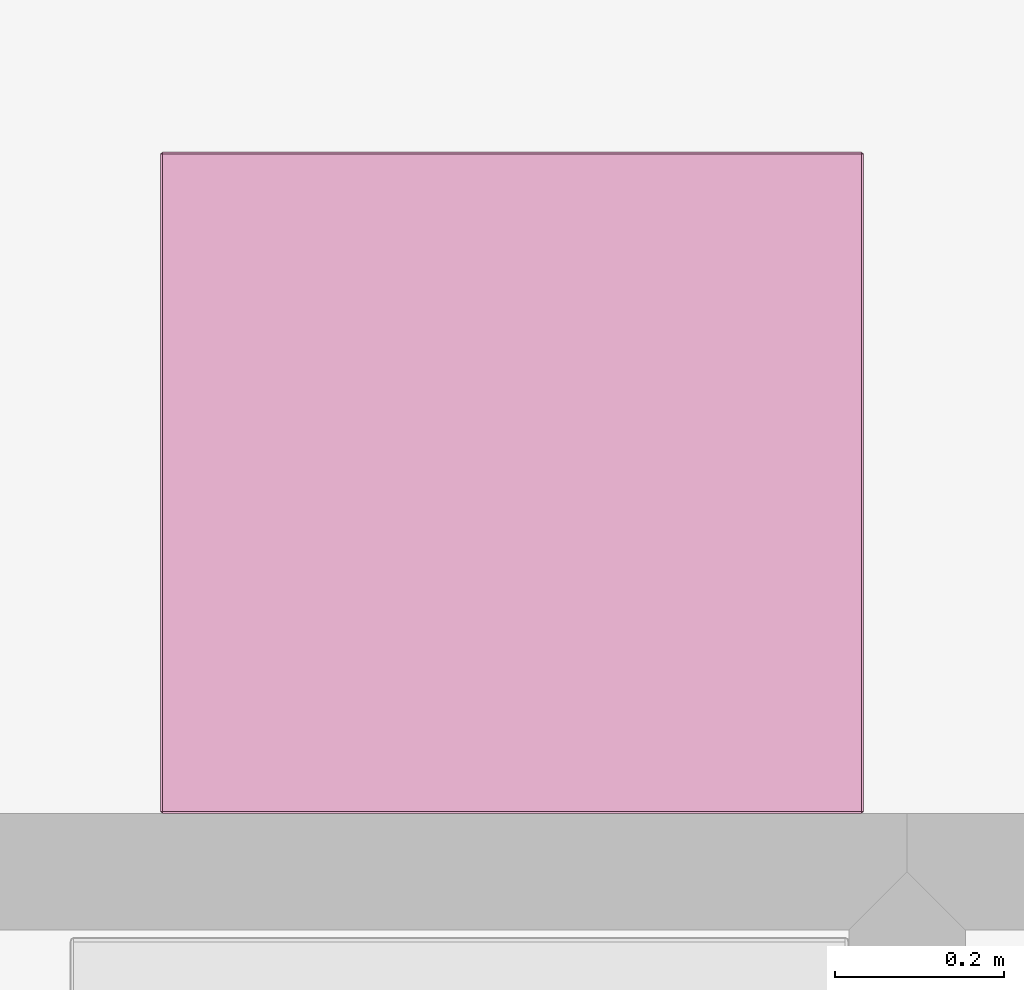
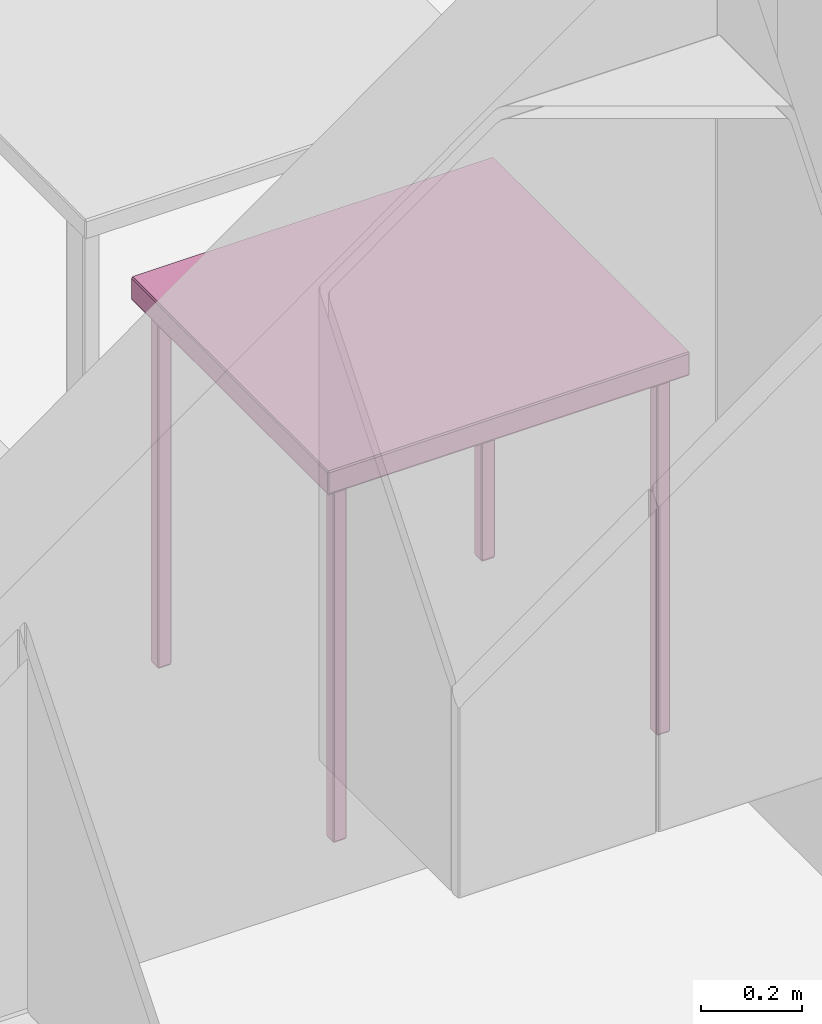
# One storey, part 2 of 9: 1 furnishing.
"""IFC2X3 building model written with IfcOpenShell, lengths in metres."""

from ifc_helpers import new_model, si_unit, frame, origin_with_axes, place, context, project, spatial, faceted_brep, type_object, element, save


model = new_model("IFC2X3")

# Units and contexts
model_context = context("Model", 3, precision=1e-05, world=origin_with_axes())
ifc_project = project(units=[si_unit("AREAUNIT", "SQUARE_METRE"), si_unit("LENGTHUNIT", "METRE")], contexts=[model_context])

# Site, building, storey, space
site_placement = place(None, origin_with_axes())
site = spatial("IfcSite", under=ifc_project, at=site_placement, Name="Site", CompositionType="ELEMENT")
building_placement = place(site_placement, origin_with_axes())
building = spatial("IfcBuilding", under=site, at=building_placement, Name="Building", CompositionType="ELEMENT")
storey_placement = place(building_placement, frame((0.0, 0.0, 0.0500004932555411), z_axis=(0.0, 0.0, 1.0), x_axis=(1.0, 0.0, 0.0)))
storey = spatial("IfcBuildingStorey", under=building, at=storey_placement, Name="Story 0", CompositionType="ELEMENT", Elevation=0.0499999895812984)
space_placement = place(storey_placement, frame((-7.67097576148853, 2.58340758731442, 0.0), z_axis=(0.0, 0.0, 1.0), x_axis=(1.0, 0.0, 0.0)))
space = spatial("IfcSpace", under=storey, at=space_placement, Name="001", CompositionType="ELEMENT", InteriorOrExteriorSpace="INTERNAL")

# Furnishing
furniture_type = type_object("IfcFurnitureType", Name="8485a4e7-10bb-4ac4-9428-351173809fa8")
furnishing_placement = place(space_placement, frame((1.53107412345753, -3.07276023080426, 0.464273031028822), z_axis=(0.0, 0.0, 0.999999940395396), x_axis=(0.0, 1.00000000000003, 0.0)))
element("IfcFurnishingElement", 1, at=furnishing_placement, inside=space, type_object=furniture_type, Name="Table", ObjectType="Table", context=model_context, shape_type="Brep", body=[
    faceted_brep([(0.3888, 0.4154, 0.4104), (-0.3888, 0.4154, 0.4104), (0.3888, 0.4154, 0.4602), (-0.3888, 0.4154, 0.4602), (0.3888, 0.4154, 0.4602), (-0.3888, 0.4154, 0.4104), (0.3333, -0.3846, 0.4209), (0.3333, -0.3574, 0.4209), (0.3333, -0.3846, -0.4602), (0.3333, -0.3574, -0.4602), (0.3333, -0.3846, -0.4602), (0.3333, -0.3574, 0.4209), (0.3608, -0.3867, 0.4209), (0.3352, -0.3867, 0.4209), (0.3608, -0.3867, -0.4602), (0.3352, -0.3867, -0.4602), (0.3608, -0.3867, -0.4602), (0.3352, -0.3867, 0.4209), (0.3628, -0.3574, 0.4209), (0.3628, -0.3846, 0.4209), (0.3628, -0.3574, -0.4602), (0.3628, -0.3846, -0.4602), (0.3628, -0.3574, -0.4602), (0.3628, -0.3846, 0.4209), (0.3352, -0.3553, 0.4209), (0.3608, -0.3553, 0.4209), (0.3352, -0.3553, -0.4602), (0.3608, -0.3553, -0.4602), (0.3352, -0.3553, -0.4602), (0.3608, -0.3553, 0.4209), (0.3333, 0.3846, 0.4209), (0.3333, 0.3846, -0.4602), (0.3333, 0.3574, 0.4209), (0.3333, 0.3574, -0.4602), (0.3333, 0.3574, 0.4209), (0.3333, 0.3846, -0.4602), (0.3608, 0.3867, 0.4209), (0.3608, 0.3867, -0.4602), (0.3352, 0.3867, 0.4209), (0.3352, 0.3867, -0.4602), (0.3352, 0.3867, 0.4209), (0.3608, 0.3867, -0.4602), (0.3628, 0.3574, 0.4209), (0.3628, 0.3574, -0.4602), (0.3628, 0.3846, 0.4209), (0.3628, 0.3846, -0.4602), (0.3628, 0.3846, 0.4209), (0.3628, 0.3574, -0.4602), (0.3352, 0.3553, 0.4209), (0.3352, 0.3553, -0.4602), (0.3608, 0.3553, 0.4209), (0.3608, 0.3553, -0.4602), (0.3608, 0.3553, 0.4209), (0.3352, 0.3553, -0.4602), (0.3907, 0.4133, 0.4104), (0.3907, 0.4133, 0.4602), (0.3907, -0.4133, 0.4104), (0.3907, -0.4133, 0.4602), (0.3907, -0.4133, 0.4104), (0.3907, 0.4133, 0.4602), (-0.3907, 0.4133, 0.4602), (-0.3907, 0.4133, 0.4104), (-0.3907, -0.4133, 0.4602), (-0.3907, -0.4133, 0.4104), (-0.3907, -0.4133, 0.4602), (-0.3907, 0.4133, 0.4104), (-0.3333, -0.3846, 0.4209), (-0.3333, -0.3846, -0.4602), (-0.3333, -0.3574, 0.4209), (-0.3333, -0.3574, -0.4602), (-0.3333, -0.3574, 0.4209), (-0.3333, -0.3846, -0.4602), (-0.3608, -0.3867, 0.4209), (-0.3608, -0.3867, -0.4602), (-0.3352, -0.3867, 0.4209), (-0.3352, -0.3867, -0.4602), (-0.3352, -0.3867, 0.4209), (-0.3608, -0.3867, -0.4602), (-0.3628, -0.3574, 0.4209), (-0.3628, -0.3574, -0.4602), (-0.3628, -0.3846, 0.4209), (-0.3628, -0.3846, -0.4602), (-0.3628, -0.3846, 0.4209), (-0.3628, -0.3574, -0.4602), (-0.3352, -0.3553, 0.4209), (-0.3352, -0.3553, -0.4602), (-0.3608, -0.3553, 0.4209), (-0.3608, -0.3553, -0.4602), (-0.3608, -0.3553, 0.4209), (-0.3352, -0.3553, -0.4602), (-0.3333, 0.3846, 0.4209), (-0.3333, 0.3574, 0.4209), (-0.3333, 0.3846, -0.4602), (-0.3333, 0.3574, -0.4602), (-0.3333, 0.3846, -0.4602), (-0.3333, 0.3574, 0.4209), (-0.3608, 0.3867, 0.4209), (-0.3352, 0.3867, 0.4209), (-0.3608, 0.3867, -0.4602), (-0.3352, 0.3867, -0.4602), (-0.3608, 0.3867, -0.4602), (-0.3352, 0.3867, 0.4209), (-0.3628, 0.3574, 0.4209), (-0.3628, 0.3846, 0.4209), (-0.3628, 0.3574, -0.4602), (-0.3628, 0.3846, -0.4602), (-0.3628, 0.3574, -0.4602), (-0.3628, 0.3846, 0.4209), (-0.3352, 0.3553, 0.4209), (-0.3608, 0.3553, 0.4209), (-0.3352, 0.3553, -0.4602), (-0.3608, 0.3553, -0.4602), (-0.3352, 0.3553, -0.4602), (-0.3608, 0.3553, 0.4209), (-0.3888, 0.4133, 0.4643), (-0.3888, -0.4133, 0.4643), (0.3888, 0.4133, 0.4643), (0.3888, -0.4133, 0.4643), (0.3888, 0.4133, 0.4643), (-0.3888, -0.4133, 0.4643), (0.3888, -0.4154, 0.4104), (0.3888, -0.4154, 0.4602), (-0.3888, -0.4154, 0.4104), (-0.3888, -0.4154, 0.4602), (-0.3888, -0.4154, 0.4104), (0.3888, -0.4154, 0.4602), (0.3888, -0.4133, 0.4063), (-0.3888, -0.4133, 0.4063), (0.3888, 0.4133, 0.4063), (-0.3888, 0.4133, 0.4063), (0.3888, 0.4133, 0.4063), (-0.3888, -0.4133, 0.4063), (0.3608, -0.3846, 0.4249), (0.3608, -0.3574, 0.4249), (0.3352, -0.3846, 0.4249), (0.3352, -0.3574, 0.4249), (0.3352, -0.3846, 0.4249), (0.3608, -0.3574, 0.4249), (0.3608, -0.3574, -0.4643), (0.3608, -0.3846, -0.4643), (0.3352, -0.3574, -0.4643), (0.3352, -0.3846, -0.4643), (0.3352, -0.3574, -0.4643), (0.3608, -0.3846, -0.4643), (0.3608, 0.3846, -0.4643), (0.3608, 0.3574, -0.4643), (0.3352, 0.3846, -0.4643), (0.3352, 0.3574, -0.4643), (0.3352, 0.3846, -0.4643), (0.3608, 0.3574, -0.4643), (0.3608, 0.3574, 0.4249), (0.3608, 0.3846, 0.4249), (0.3352, 0.3574, 0.4249), (0.3352, 0.3846, 0.4249), (0.3352, 0.3574, 0.4249), (0.3608, 0.3846, 0.4249), (-0.3608, -0.3846, -0.4643), (-0.3608, -0.3574, -0.4643), (-0.3352, -0.3846, -0.4643), (-0.3352, -0.3574, -0.4643), (-0.3352, -0.3846, -0.4643), (-0.3608, -0.3574, -0.4643), (-0.3608, -0.3574, 0.425), (-0.3608, -0.3846, 0.425), (-0.3352, -0.3574, 0.425), (-0.3352, -0.3846, 0.425), (-0.3352, -0.3574, 0.425), (-0.3608, -0.3846, 0.425), (-0.3608, 0.3846, 0.4249), (-0.3608, 0.3574, 0.4249), (-0.3352, 0.3846, 0.4249), (-0.3352, 0.3574, 0.4249), (-0.3352, 0.3846, 0.4249), (-0.3608, 0.3574, 0.4249), (-0.3608, 0.3574, -0.4643), (-0.3608, 0.3846, -0.4643), (-0.3352, 0.3574, -0.4643), (-0.3352, 0.3846, -0.4643), (-0.3352, 0.3574, -0.4643), (-0.3608, 0.3846, -0.4643), (-0.3888, 0.4133, 0.4643), (-0.3888, 0.4154, 0.4602), (-0.3907, 0.4133, 0.4602), (0.3352, -0.3574, -0.4643), (0.3333, -0.3574, -0.4602), (0.3352, -0.3553, -0.4602), (0.3352, -0.3846, -0.4643), (0.3352, -0.3867, -0.4602), (0.3333, -0.3846, -0.4602), (0.3608, -0.3846, -0.4643), (0.3628, -0.3846, -0.4602), (0.3608, -0.3867, -0.4602), (0.3608, -0.3574, -0.4643), (0.3608, -0.3553, -0.4602), (0.3628, -0.3574, -0.4602), (0.3352, -0.3574, 0.4249), (0.3352, -0.3553, 0.4209), (0.3333, -0.3574, 0.4209), (0.3352, 0.3553, -0.4602), (0.3333, 0.3574, -0.4602), (0.3352, 0.3574, -0.4643), (0.3352, 0.3846, 0.4249), (0.3352, 0.3867, 0.4209), (0.3333, 0.3846, 0.4209), (0.3608, 0.3846, 0.4249), (0.3628, 0.3846, 0.4209), (0.3608, 0.3867, 0.4209), (0.3608, 0.3574, 0.4249), (0.3608, 0.3553, 0.4209), (0.3628, 0.3574, 0.4209), (0.3888, -0.4154, 0.4602), (0.3907, -0.4133, 0.4602), (0.3888, -0.4133, 0.4643), (0.3888, 0.4133, 0.4643), (0.3907, 0.4133, 0.4602), (0.3888, 0.4154, 0.4602), (-0.3888, -0.4154, 0.4104), (-0.3907, -0.4133, 0.4104), (-0.3888, -0.4133, 0.4063), (-0.3888, 0.4133, 0.4063), (-0.3907, 0.4133, 0.4104), (-0.3888, 0.4154, 0.4104), (-0.3352, -0.3553, -0.4602), (-0.3333, -0.3574, -0.4602), (-0.3352, -0.3574, -0.4643), (-0.3352, -0.3846, 0.425), (-0.3352, -0.3867, 0.4209), (-0.3333, -0.3846, 0.4209), (-0.3608, -0.3846, 0.425), (-0.3628, -0.3846, 0.4209), (-0.3608, -0.3867, 0.4209), (-0.3608, -0.3574, 0.425), (-0.3608, -0.3553, 0.4209), (-0.3628, -0.3574, 0.4209), (-0.3352, 0.3574, -0.4643), (-0.3333, 0.3574, -0.4602), (-0.3352, 0.3553, -0.4602), (-0.3352, 0.3846, -0.4643), (-0.3352, 0.3867, -0.4602), (-0.3333, 0.3846, -0.4602), (-0.3608, 0.3846, -0.4643), (-0.3628, 0.3846, -0.4602), (-0.3608, 0.3867, -0.4602), (-0.3608, 0.3574, -0.4643), (-0.3608, 0.3553, -0.4602), (-0.3628, 0.3574, -0.4602), (-0.3352, 0.3574, 0.4249), (-0.3352, 0.3553, 0.4209), (-0.3333, 0.3574, 0.4209), (-0.3888, -0.4154, 0.4602), (-0.3888, -0.4133, 0.4643), (-0.3907, -0.4133, 0.4602), (0.3888, -0.4154, 0.4104), (0.3888, -0.4133, 0.4063), (0.3907, -0.4133, 0.4104), (0.3907, 0.4133, 0.4104), (0.3888, 0.4133, 0.4063), (0.3888, 0.4154, 0.4104), (0.3608, -0.3553, 0.4209), (0.3608, -0.3574, 0.4249), (0.3628, -0.3574, 0.4209), (0.3628, -0.3846, 0.4209), (0.3608, -0.3846, 0.4249), (0.3608, -0.3867, 0.4209), (0.3352, -0.3867, 0.4209), (0.3352, -0.3846, 0.4249), (0.3333, -0.3846, 0.4209), (0.3608, 0.3553, -0.4602), (0.3608, 0.3574, -0.4643), (0.3628, 0.3574, -0.4602), (0.3628, 0.3846, -0.4602), (0.3608, 0.3846, -0.4643), (0.3608, 0.3867, -0.4602), (0.3352, 0.3867, -0.4602), (0.3352, 0.3846, -0.4643), (0.3333, 0.3846, -0.4602), (0.3352, 0.3553, 0.4209), (0.3352, 0.3574, 0.4249), (0.3333, 0.3574, 0.4209), (-0.3608, -0.3553, -0.4602), (-0.3608, -0.3574, -0.4643), (-0.3628, -0.3574, -0.4602), (-0.3628, -0.3846, -0.4602), (-0.3608, -0.3846, -0.4643), (-0.3608, -0.3867, -0.4602), (-0.3352, -0.3867, -0.4602), (-0.3352, -0.3846, -0.4643), (-0.3333, -0.3846, -0.4602), (-0.3352, -0.3553, 0.4209), (-0.3352, -0.3574, 0.425), (-0.3333, -0.3574, 0.4209), (-0.3608, 0.3553, 0.4209), (-0.3608, 0.3574, 0.4249), (-0.3628, 0.3574, 0.4209), (-0.3628, 0.3846, 0.4209), (-0.3608, 0.3846, 0.4249), (-0.3608, 0.3867, 0.4209), (-0.3352, 0.3867, 0.4209), (-0.3352, 0.3846, 0.4249), (-0.3333, 0.3846, 0.4209), (-0.3888, 0.4154, 0.4602), (-0.3888, 0.4154, 0.4104), (-0.3907, 0.4133, 0.4602), (-0.3907, 0.4133, 0.4104), (-0.3907, 0.4133, 0.4602), (-0.3888, 0.4154, 0.4104), (-0.3888, 0.4154, 0.4104), (0.3888, 0.4154, 0.4104), (-0.3888, 0.4133, 0.4063), (0.3888, 0.4133, 0.4063), (-0.3888, 0.4133, 0.4063), (0.3888, 0.4154, 0.4104), (0.3888, 0.4154, 0.4104), (0.3888, 0.4154, 0.4602), (0.3907, 0.4133, 0.4104), (0.3907, 0.4133, 0.4602), (0.3907, 0.4133, 0.4104), (0.3888, 0.4154, 0.4602), (0.3888, 0.4154, 0.4602), (-0.3888, 0.4154, 0.4602), (0.3888, 0.4133, 0.4643), (-0.3888, 0.4133, 0.4643), (0.3888, 0.4133, 0.4643), (-0.3888, 0.4154, 0.4602), (0.3333, -0.3574, -0.4602), (0.3333, -0.3574, 0.4209), (0.3352, -0.3553, -0.4602), (0.3352, -0.3553, 0.4209), (0.3352, -0.3553, -0.4602), (0.3333, -0.3574, 0.4209), (0.3333, -0.3574, 0.4209), (0.3333, -0.3846, 0.4209), (0.3352, -0.3574, 0.4249), (0.3352, -0.3846, 0.4249), (0.3352, -0.3574, 0.4249), (0.3333, -0.3846, 0.4209), (0.3333, -0.3846, 0.4209), (0.3333, -0.3846, -0.4602), (0.3352, -0.3867, 0.4209), (0.3352, -0.3867, -0.4602), (0.3352, -0.3867, 0.4209), (0.3333, -0.3846, -0.4602), (0.3333, -0.3846, -0.4602), (0.3333, -0.3574, -0.4602), (0.3352, -0.3846, -0.4643), (0.3352, -0.3574, -0.4643), (0.3352, -0.3846, -0.4643), (0.3333, -0.3574, -0.4602), (0.3352, -0.3867, 0.4209), (0.3608, -0.3867, 0.4209), (0.3352, -0.3846, 0.4249), (0.3608, -0.3846, 0.4249), (0.3352, -0.3846, 0.4249), (0.3608, -0.3867, 0.4209), (0.3608, -0.3867, 0.4209), (0.3608, -0.3867, -0.4602), (0.3628, -0.3846, 0.4209), (0.3628, -0.3846, -0.4602), (0.3628, -0.3846, 0.4209), (0.3608, -0.3867, -0.4602), (0.3608, -0.3867, -0.4602), (0.3352, -0.3867, -0.4602), (0.3608, -0.3846, -0.4643), (0.3352, -0.3846, -0.4643), (0.3608, -0.3846, -0.4643), (0.3352, -0.3867, -0.4602), (0.3628, -0.3846, 0.4209), (0.3628, -0.3574, 0.4209), (0.3608, -0.3846, 0.4249), (0.3608, -0.3574, 0.4249), (0.3608, -0.3846, 0.4249), (0.3628, -0.3574, 0.4209), (0.3628, -0.3574, 0.4209), (0.3628, -0.3574, -0.4602), (0.3608, -0.3553, 0.4209), (0.3608, -0.3553, -0.4602), (0.3608, -0.3553, 0.4209), (0.3628, -0.3574, -0.4602), (0.3628, -0.3574, -0.4602), (0.3628, -0.3846, -0.4602), (0.3608, -0.3574, -0.4643), (0.3608, -0.3846, -0.4643), (0.3608, -0.3574, -0.4643), (0.3628, -0.3846, -0.4602), (0.3608, -0.3553, 0.4209), (0.3352, -0.3553, 0.4209), (0.3608, -0.3574, 0.4249), (0.3352, -0.3574, 0.4249), (0.3608, -0.3574, 0.4249), (0.3352, -0.3553, 0.4209), (0.3352, -0.3553, -0.4602), (0.3608, -0.3553, -0.4602), (0.3352, -0.3574, -0.4643), (0.3608, -0.3574, -0.4643), (0.3352, -0.3574, -0.4643), (0.3608, -0.3553, -0.4602), (0.3333, 0.3574, -0.4602), (0.3333, 0.3846, -0.4602), (0.3352, 0.3574, -0.4643), (0.3352, 0.3846, -0.4643), (0.3352, 0.3574, -0.4643), (0.3333, 0.3846, -0.4602), (0.3333, 0.3846, -0.4602), (0.3333, 0.3846, 0.4209), (0.3352, 0.3867, -0.4602), (0.3352, 0.3867, 0.4209), (0.3352, 0.3867, -0.4602), (0.3333, 0.3846, 0.4209), (0.3333, 0.3846, 0.4209), (0.3333, 0.3574, 0.4209), (0.3352, 0.3846, 0.4249), (0.3352, 0.3574, 0.4249), (0.3352, 0.3846, 0.4249), (0.3333, 0.3574, 0.4209), (0.3333, 0.3574, 0.4209), (0.3333, 0.3574, -0.4602), (0.3352, 0.3553, 0.4209), (0.3352, 0.3553, -0.4602), (0.3352, 0.3553, 0.4209), (0.3333, 0.3574, -0.4602), (0.3352, 0.3867, -0.4602), (0.3608, 0.3867, -0.4602), (0.3352, 0.3846, -0.4643), (0.3608, 0.3846, -0.4643), (0.3352, 0.3846, -0.4643), (0.3608, 0.3867, -0.4602), (0.3608, 0.3867, -0.4602), (0.3608, 0.3867, 0.4209), (0.3628, 0.3846, -0.4602), (0.3628, 0.3846, 0.4209), (0.3628, 0.3846, -0.4602), (0.3608, 0.3867, 0.4209), (0.3608, 0.3867, 0.4209), (0.3352, 0.3867, 0.4209), (0.3608, 0.3846, 0.4249), (0.3352, 0.3846, 0.4249), (0.3608, 0.3846, 0.4249), (0.3352, 0.3867, 0.4209), (0.3628, 0.3846, -0.4602), (0.3628, 0.3574, -0.4602), (0.3608, 0.3846, -0.4643), (0.3608, 0.3574, -0.4643), (0.3608, 0.3846, -0.4643), (0.3628, 0.3574, -0.4602), (0.3628, 0.3574, -0.4602), (0.3628, 0.3574, 0.4209), (0.3608, 0.3553, -0.4602), (0.3608, 0.3553, 0.4209), (0.3608, 0.3553, -0.4602), (0.3628, 0.3574, 0.4209), (0.3628, 0.3574, 0.4209), (0.3628, 0.3846, 0.4209), (0.3608, 0.3574, 0.4249), (0.3608, 0.3846, 0.4249), (0.3608, 0.3574, 0.4249), (0.3628, 0.3846, 0.4209), (0.3608, 0.3553, -0.4602), (0.3352, 0.3553, -0.4602), (0.3608, 0.3574, -0.4643), (0.3352, 0.3574, -0.4643), (0.3608, 0.3574, -0.4643), (0.3352, 0.3553, -0.4602), (0.3352, 0.3553, 0.4209), (0.3608, 0.3553, 0.4209), (0.3352, 0.3574, 0.4249), (0.3608, 0.3574, 0.4249), (0.3352, 0.3574, 0.4249), (0.3608, 0.3553, 0.4209), (0.3907, -0.4133, 0.4602), (0.3907, 0.4133, 0.4602), (0.3888, -0.4133, 0.4643), (0.3888, 0.4133, 0.4643), (0.3888, -0.4133, 0.4643), (0.3907, 0.4133, 0.4602), (0.3907, 0.4133, 0.4104), (0.3907, -0.4133, 0.4104), (0.3888, 0.4133, 0.4063), (0.3888, -0.4133, 0.4063), (0.3888, 0.4133, 0.4063), (0.3907, -0.4133, 0.4104), (0.3907, -0.4133, 0.4104), (0.3907, -0.4133, 0.4602), (0.3888, -0.4154, 0.4104), (0.3888, -0.4154, 0.4602), (0.3888, -0.4154, 0.4104), (0.3907, -0.4133, 0.4602), (-0.3907, -0.4133, 0.4104), (-0.3907, 0.4133, 0.4104), (-0.3888, -0.4133, 0.4063), (-0.3888, 0.4133, 0.4063), (-0.3888, -0.4133, 0.4063), (-0.3907, 0.4133, 0.4104), (-0.3907, 0.4133, 0.4602), (-0.3907, -0.4133, 0.4602), (-0.3888, 0.4133, 0.4643), (-0.3888, -0.4133, 0.4643), (-0.3888, 0.4133, 0.4643), (-0.3907, -0.4133, 0.4602), (-0.3907, -0.4133, 0.4602), (-0.3907, -0.4133, 0.4104), (-0.3888, -0.4154, 0.4602), (-0.3888, -0.4154, 0.4104), (-0.3888, -0.4154, 0.4602), (-0.3907, -0.4133, 0.4104), (-0.3333, -0.3574, -0.4602), (-0.3333, -0.3846, -0.4602), (-0.3352, -0.3574, -0.4643), (-0.3352, -0.3846, -0.4643), (-0.3352, -0.3574, -0.4643), (-0.3333, -0.3846, -0.4602), (-0.3333, -0.3846, -0.4602), (-0.3333, -0.3846, 0.4209), (-0.3352, -0.3867, -0.4602), (-0.3352, -0.3867, 0.4209), (-0.3352, -0.3867, -0.4602), (-0.3333, -0.3846, 0.4209), (-0.3333, -0.3846, 0.4209), (-0.3333, -0.3574, 0.4209), (-0.3352, -0.3846, 0.425), (-0.3352, -0.3574, 0.425), (-0.3352, -0.3846, 0.425), (-0.3333, -0.3574, 0.4209), (-0.3333, -0.3574, 0.4209), (-0.3333, -0.3574, -0.4602), (-0.3352, -0.3553, 0.4209), (-0.3352, -0.3553, -0.4602), (-0.3352, -0.3553, 0.4209), (-0.3333, -0.3574, -0.4602), (-0.3352, -0.3867, -0.4602), (-0.3608, -0.3867, -0.4602), (-0.3352, -0.3846, -0.4643), (-0.3608, -0.3846, -0.4643), (-0.3352, -0.3846, -0.4643), (-0.3608, -0.3867, -0.4602), (-0.3608, -0.3867, -0.4602), (-0.3608, -0.3867, 0.4209), (-0.3628, -0.3846, -0.4602), (-0.3628, -0.3846, 0.4209), (-0.3628, -0.3846, -0.4602), (-0.3608, -0.3867, 0.4209), (-0.3608, -0.3867, 0.4209), (-0.3352, -0.3867, 0.4209), (-0.3608, -0.3846, 0.425), (-0.3352, -0.3846, 0.425), (-0.3608, -0.3846, 0.425), (-0.3352, -0.3867, 0.4209), (-0.3628, -0.3846, -0.4602), (-0.3628, -0.3574, -0.4602), (-0.3608, -0.3846, -0.4643), (-0.3608, -0.3574, -0.4643), (-0.3608, -0.3846, -0.4643), (-0.3628, -0.3574, -0.4602), (-0.3628, -0.3574, -0.4602), (-0.3628, -0.3574, 0.4209), (-0.3608, -0.3553, -0.4602), (-0.3608, -0.3553, 0.4209), (-0.3608, -0.3553, -0.4602), (-0.3628, -0.3574, 0.4209), (-0.3628, -0.3574, 0.4209), (-0.3628, -0.3846, 0.4209), (-0.3608, -0.3574, 0.425), (-0.3608, -0.3846, 0.425), (-0.3608, -0.3574, 0.425), (-0.3628, -0.3846, 0.4209), (-0.3608, -0.3553, -0.4602), (-0.3352, -0.3553, -0.4602), (-0.3608, -0.3574, -0.4643), (-0.3352, -0.3574, -0.4643), (-0.3608, -0.3574, -0.4643), (-0.3352, -0.3553, -0.4602), (-0.3352, -0.3553, 0.4209), (-0.3608, -0.3553, 0.4209), (-0.3352, -0.3574, 0.425), (-0.3608, -0.3574, 0.425), (-0.3352, -0.3574, 0.425), (-0.3608, -0.3553, 0.4209), (-0.3333, 0.3574, -0.4602), (-0.3333, 0.3574, 0.4209), (-0.3352, 0.3553, -0.4602), (-0.3352, 0.3553, 0.4209), (-0.3352, 0.3553, -0.4602), (-0.3333, 0.3574, 0.4209), (-0.3333, 0.3574, 0.4209), (-0.3333, 0.3846, 0.4209), (-0.3352, 0.3574, 0.4249), (-0.3352, 0.3846, 0.4249), (-0.3352, 0.3574, 0.4249), (-0.3333, 0.3846, 0.4209), (-0.3333, 0.3846, 0.4209), (-0.3333, 0.3846, -0.4602), (-0.3352, 0.3867, 0.4209), (-0.3352, 0.3867, -0.4602), (-0.3352, 0.3867, 0.4209), (-0.3333, 0.3846, -0.4602), (-0.3333, 0.3846, -0.4602), (-0.3333, 0.3574, -0.4602), (-0.3352, 0.3846, -0.4643), (-0.3352, 0.3574, -0.4643), (-0.3352, 0.3846, -0.4643), (-0.3333, 0.3574, -0.4602), (-0.3352, 0.3867, 0.4209), (-0.3608, 0.3867, 0.4209), (-0.3352, 0.3846, 0.4249), (-0.3608, 0.3846, 0.4249), (-0.3352, 0.3846, 0.4249), (-0.3608, 0.3867, 0.4209), (-0.3608, 0.3867, 0.4209), (-0.3608, 0.3867, -0.4602), (-0.3628, 0.3846, 0.4209), (-0.3628, 0.3846, -0.4602), (-0.3628, 0.3846, 0.4209), (-0.3608, 0.3867, -0.4602), (-0.3608, 0.3867, -0.4602), (-0.3352, 0.3867, -0.4602), (-0.3608, 0.3846, -0.4643), (-0.3352, 0.3846, -0.4643), (-0.3608, 0.3846, -0.4643), (-0.3352, 0.3867, -0.4602), (-0.3628, 0.3846, 0.4209), (-0.3628, 0.3574, 0.4209), (-0.3608, 0.3846, 0.4249), (-0.3608, 0.3574, 0.4249), (-0.3608, 0.3846, 0.4249), (-0.3628, 0.3574, 0.4209), (-0.3628, 0.3574, 0.4209), (-0.3628, 0.3574, -0.4602), (-0.3608, 0.3553, 0.4209), (-0.3608, 0.3553, -0.4602), (-0.3608, 0.3553, 0.4209), (-0.3628, 0.3574, -0.4602), (-0.3628, 0.3574, -0.4602), (-0.3628, 0.3846, -0.4602), (-0.3608, 0.3574, -0.4643), (-0.3608, 0.3846, -0.4643), (-0.3608, 0.3574, -0.4643), (-0.3628, 0.3846, -0.4602), (-0.3608, 0.3553, 0.4209), (-0.3352, 0.3553, 0.4209), (-0.3608, 0.3574, 0.4249), (-0.3352, 0.3574, 0.4249), (-0.3608, 0.3574, 0.4249), (-0.3352, 0.3553, 0.4209), (-0.3352, 0.3553, -0.4602), (-0.3608, 0.3553, -0.4602), (-0.3352, 0.3574, -0.4643), (-0.3608, 0.3574, -0.4643), (-0.3352, 0.3574, -0.4643), (-0.3608, 0.3553, -0.4602), (0.3888, -0.4133, 0.4643), (-0.3888, -0.4133, 0.4643), (0.3888, -0.4154, 0.4602), (-0.3888, -0.4154, 0.4602), (0.3888, -0.4154, 0.4602), (-0.3888, -0.4133, 0.4643), (0.3888, -0.4154, 0.4104), (-0.3888, -0.4154, 0.4104), (0.3888, -0.4133, 0.4063), (-0.3888, -0.4133, 0.4063), (0.3888, -0.4133, 0.4063), (-0.3888, -0.4154, 0.4104)], [[[0, 1, 2]], [[3, 4, 5]], [[6, 7, 8]], [[9, 10, 11]], [[12, 13, 14]], [[15, 16, 17]], [[18, 19, 20]], [[21, 22, 23]], [[24, 25, 26]], [[27, 28, 29]], [[30, 31, 32]], [[33, 34, 35]], [[36, 37, 38]], [[39, 40, 41]], [[42, 43, 44]], [[45, 46, 47]], [[48, 49, 50]], [[51, 52, 53]], [[54, 55, 56]], [[57, 58, 59]], [[60, 61, 62]], [[63, 64, 65]], [[66, 67, 68]], [[69, 70, 71]], [[72, 73, 74]], [[75, 76, 77]], [[78, 79, 80]], [[81, 82, 83]], [[84, 85, 86]], [[87, 88, 89]], [[90, 91, 92]], [[93, 94, 95]], [[96, 97, 98]], [[99, 100, 101]], [[102, 103, 104]], [[105, 106, 107]], [[108, 109, 110]], [[111, 112, 113]], [[114, 115, 116]], [[117, 118, 119]], [[120, 121, 122]], [[123, 124, 125]], [[126, 127, 128]], [[129, 130, 131]], [[132, 133, 134]], [[135, 136, 137]], [[138, 139, 140]], [[141, 142, 143]], [[144, 145, 146]], [[147, 148, 149]], [[150, 151, 152]], [[153, 154, 155]], [[156, 157, 158]], [[159, 160, 161]], [[162, 163, 164]], [[165, 166, 167]], [[168, 169, 170]], [[171, 172, 173]], [[174, 175, 176]], [[177, 178, 179]], [[180, 181, 182]], [[183, 184, 185]], [[186, 187, 188]], [[189, 190, 191]], [[192, 193, 194]], [[195, 196, 197]], [[198, 199, 200]], [[201, 202, 203]], [[204, 205, 206]], [[207, 208, 209]], [[210, 211, 212]], [[213, 214, 215]], [[216, 217, 218]], [[219, 220, 221]], [[222, 223, 224]], [[225, 226, 227]], [[228, 229, 230]], [[231, 232, 233]], [[234, 235, 236]], [[237, 238, 239]], [[240, 241, 242]], [[243, 244, 245]], [[246, 247, 248]], [[249, 250, 251]], [[252, 253, 254]], [[255, 256, 257]], [[258, 259, 260]], [[261, 262, 263]], [[264, 265, 266]], [[267, 268, 269]], [[270, 271, 272]], [[273, 274, 275]], [[276, 277, 278]], [[279, 280, 281]], [[282, 283, 284]], [[285, 286, 287]], [[288, 289, 290]], [[291, 292, 293]], [[294, 295, 296]], [[297, 298, 299]], [[300, 301, 302]], [[303, 304, 305]], [[306, 307, 308]], [[309, 310, 311]], [[312, 313, 314]], [[315, 316, 317]], [[318, 319, 320]], [[321, 322, 323]], [[324, 325, 326]], [[327, 328, 329]], [[330, 331, 332]], [[333, 334, 335]], [[336, 337, 338]], [[339, 340, 341]], [[342, 343, 344]], [[345, 346, 347]], [[348, 349, 350]], [[351, 352, 353]], [[354, 355, 356]], [[357, 358, 359]], [[360, 361, 362]], [[363, 364, 365]], [[366, 367, 368]], [[369, 370, 371]], [[372, 373, 374]], [[375, 376, 377]], [[378, 379, 380]], [[381, 382, 383]], [[384, 385, 386]], [[387, 388, 389]], [[390, 391, 392]], [[393, 394, 395]], [[396, 397, 398]], [[399, 400, 401]], [[402, 403, 404]], [[405, 406, 407]], [[408, 409, 410]], [[411, 412, 413]], [[414, 415, 416]], [[417, 418, 419]], [[420, 421, 422]], [[423, 424, 425]], [[426, 427, 428]], [[429, 430, 431]], [[432, 433, 434]], [[435, 436, 437]], [[438, 439, 440]], [[441, 442, 443]], [[444, 445, 446]], [[447, 448, 449]], [[450, 451, 452]], [[453, 454, 455]], [[456, 457, 458]], [[459, 460, 461]], [[462, 463, 464]], [[465, 466, 467]], [[468, 469, 470]], [[471, 472, 473]], [[474, 475, 476]], [[477, 478, 479]], [[480, 481, 482]], [[483, 484, 485]], [[486, 487, 488]], [[489, 490, 491]], [[492, 493, 494]], [[495, 496, 497]], [[498, 499, 500]], [[501, 502, 503]], [[504, 505, 506]], [[507, 508, 509]], [[510, 511, 512]], [[513, 514, 515]], [[516, 517, 518]], [[519, 520, 521]], [[522, 523, 524]], [[525, 526, 527]], [[528, 529, 530]], [[531, 532, 533]], [[534, 535, 536]], [[537, 538, 539]], [[540, 541, 542]], [[543, 544, 545]], [[546, 547, 548]], [[549, 550, 551]], [[552, 553, 554]], [[555, 556, 557]], [[558, 559, 560]], [[561, 562, 563]], [[564, 565, 566]], [[567, 568, 569]], [[570, 571, 572]], [[573, 574, 575]], [[576, 577, 578]], [[579, 580, 581]], [[582, 583, 584]], [[585, 586, 587]], [[588, 589, 590]], [[591, 592, 593]], [[594, 595, 596]], [[597, 598, 599]], [[600, 601, 602]], [[603, 604, 605]], [[606, 607, 608]], [[609, 610, 611]], [[612, 613, 614]], [[615, 616, 617]], [[618, 619, 620]], [[621, 622, 623]], [[624, 625, 626]], [[627, 628, 629]], [[630, 631, 632]], [[633, 634, 635]], [[636, 637, 638]], [[639, 640, 641]], [[642, 643, 644]], [[645, 646, 647]], [[648, 649, 650]], [[651, 652, 653]], [[654, 655, 656]], [[657, 658, 659]]]),
])

save(model, "model.ifc")
